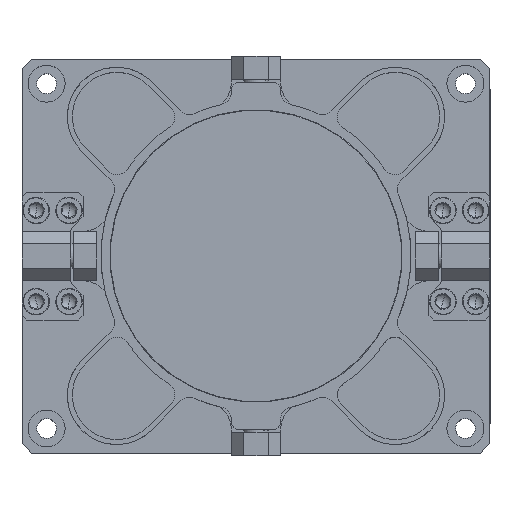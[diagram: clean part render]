
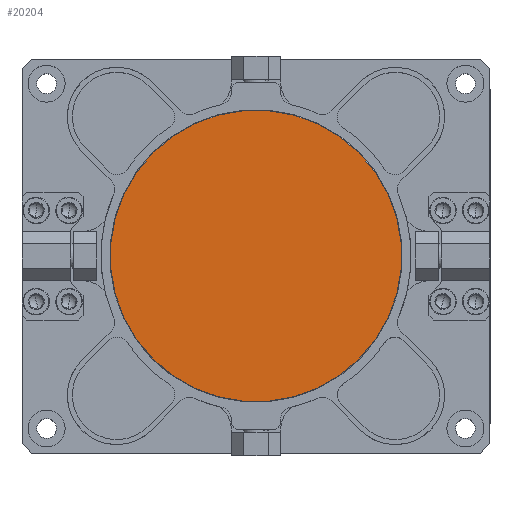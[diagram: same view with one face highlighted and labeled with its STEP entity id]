
A CAD part, top view. The second image highlights one B-rep face of the part: STEP entity #20204.
In plain terms, the highlighted planar face has unit normal (0, 0, 1).
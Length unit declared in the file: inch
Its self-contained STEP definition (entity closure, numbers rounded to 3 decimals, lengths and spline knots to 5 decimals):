
#975 = AXIS2_PLACEMENT_3D ( 'NONE', #8995, #27403, #11270 ) ;
#1789 = CARTESIAN_POINT ( 'NONE',  ( -1.04652, 1.04652, 1.73 ) ) ;
#3779 = FACE_OUTER_BOUND ( 'NONE', #15868, .T. ) ;
#3932 = VERTEX_POINT ( 'NONE', #1789 ) ;
#4701 = EDGE_CURVE ( 'Defeatured_19_215+Defeatured_19_216+Defeatured_19_216+Defeatured_19_216', #27482, #3932, #19209, .T. ) ;
#5145 = AXIS2_PLACEMENT_3D ( 'NONE', #14300, #16878, #28348 ) ;
#8995 = CARTESIAN_POINT ( 'NONE',  ( 0., 0., 1.73 ) ) ;
#11270 = DIRECTION ( 'NONE',  ( 0.707, -0.707, 0. ) ) ;
#14142 = DIRECTION ( 'NONE',  ( 0., 0., 1. ) ) ;
#14300 = CARTESIAN_POINT ( 'NONE',  ( 0., 0., 1.73 ) ) ;
#14434 = CARTESIAN_POINT ( 'NONE',  ( 0., 0., 1.73 ) ) ;
#15672 = AXIS2_PLACEMENT_3D ( 'NONE', #14434, #14142, #23587 ) ;
#15868 = EDGE_LOOP ( 'NONE', ( #28964, #25115 ) ) ;
#16878 = DIRECTION ( 'NONE',  ( 0., 0., 1. ) ) ;
#18039 = PLANE ( 'NONE',  #975 ) ;
#19209 = CIRCLE ( 'NONE', #15672, 1.48 ) ;
#20204 = ADVANCED_FACE ( 'Defeatured_19_215', ( #3779 ), #18039, .T. ) ;
#23587 = DIRECTION ( 'NONE',  ( 0.707, -0.707, 0. ) ) ;
#24059 = CIRCLE ( 'NONE', #5145, 1.48 ) ;
#25115 = ORIENTED_EDGE ( 'NONE', *, *, #4701, .T. ) ;
#26040 = CARTESIAN_POINT ( 'NONE',  ( 1.04652, -1.04652, 1.73 ) ) ;
#26960 = EDGE_CURVE ( 'Defeatured_19_215+Defeatured_19_216+Defeatured_19_216+Defeatured_19_216', #3932, #27482, #24059, .T. ) ;
#27403 = DIRECTION ( 'NONE',  ( 0., 0., 1. ) ) ;
#27482 = VERTEX_POINT ( 'NONE', #26040 ) ;
#28348 = DIRECTION ( 'NONE',  ( 0.707, -0.707, 0. ) ) ;
#28964 = ORIENTED_EDGE ( 'NONE', *, *, #26960, .T. ) ;
